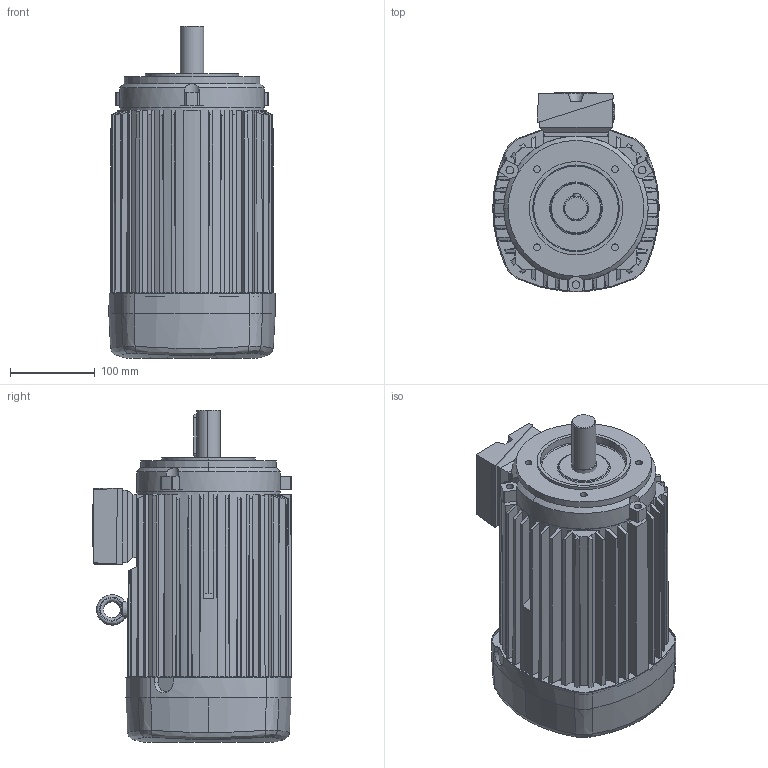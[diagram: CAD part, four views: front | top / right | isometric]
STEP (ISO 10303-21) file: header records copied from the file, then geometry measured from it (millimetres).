
FILE_DESCRIPTION (( 'STEP AP214' ), '1' );
FILE_NAME ('IE3-W41R112MY2_B14FT130.STEP', '2024-10-22T07:51:29', ( '' ), ( '' ), 'SwSTEP 2.0', 'SolidWorks 2023', '' );
FILE_SCHEMA (( 'AUTOMOTIVE_DESIGN' ));
Length unit declared in the file: millimetre
Products named in the file (10): KA05_Kat; Ringschraube_M8; KD05_Kat; KA05_komplett_Kat_VSS_2xM20; LHB_Kat_LHB10; G100L_Kat; LF_FT_klein_LF11 FT130; WE_Kat_28x60 (BG112); IE3-W41R112MY2_B14FT130; Verschlussschraube_M20
Assembly tree (10 placements, depth 3):
  IE3-W41R112MY2_B14FT130
    G100L_Kat
    LHB_Kat_LHB10
    WE_Kat_28x60 (BG112)
    KA05_komplett_Kat_VSS_2xM20
      KA05_Kat
      KD05_Kat
      Verschlussschraube_M20  x2
    Ringschraube_M8
    LF_FT_klein_LF11 FT130
Bounding box: 196 x 234.91 x 391 mm (x, y, z)
Volume: 9254250.9 mm3; surface area: 573941.5 mm2
Topology: 9 solids, 9 shells, 481 faces, 1255 edges, 806 vertices
Faces by surface type: plane 265, cylinder 102, cone 84, bspline 16, torus 10, sphere 4
Entity records: 16294 total; most frequent: CARTESIAN_POINT 4912, ORIENTED_EDGE 2432, DIRECTION 2213, EDGE_CURVE 1216, AXIS2_PLACEMENT_3D 809, VERTEX_POINT 780, VECTOR 595, LINE 595
